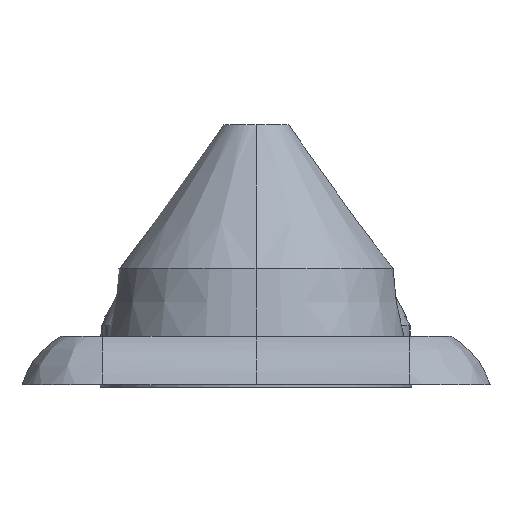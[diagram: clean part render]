
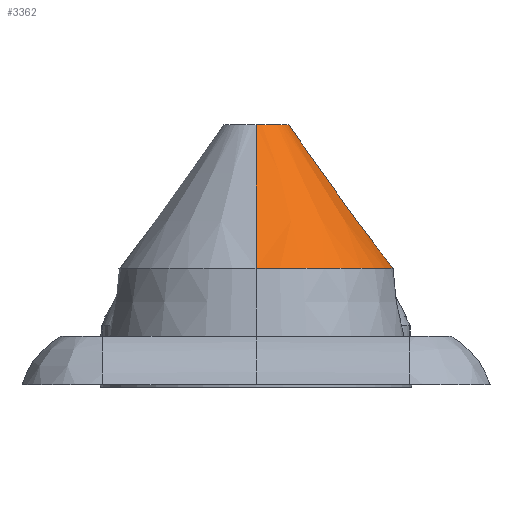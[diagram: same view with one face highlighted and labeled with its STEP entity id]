
A CAD part, left-side view. The second image highlights one B-rep face of the part: STEP entity #3362.
In plain terms, the highlighted conical face has half-angle 35.996 degrees and reference radius 26.863 mm.
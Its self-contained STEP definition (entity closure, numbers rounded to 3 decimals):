
#39 = CARTESIAN_POINT ( 'NONE',  ( 44.95, 45.7, 41.5 ) ) ;
#40 = DIRECTION ( 'NONE',  ( 0., 0., 1. ) ) ;
#41 = DIRECTION ( 'NONE',  ( 1., 0., 0. ) ) ;
#59 = CARTESIAN_POINT ( 'NONE',  ( 44.95, 45.7, 13.301 ) ) ;
#60 = DIRECTION ( 'NONE',  ( 0., 0., 1. ) ) ;
#61 = DIRECTION ( 'NONE',  ( 1., 0., 0. ) ) ;
#439 = CARTESIAN_POINT ( 'NONE',  ( 18.087, 45.7, 13.301 ) ) ;
#440 = CARTESIAN_POINT ( 'NONE',  ( 71.813, 45.7, 13.301 ) ) ;
#756 = CARTESIAN_POINT ( 'NONE',  ( 38.571, 45.7, 41.5 ) ) ;
#888 = DIRECTION ( 'NONE',  ( -1., 0., 0. ) ) ;
#890 = DIRECTION ( 'NONE',  ( 0., 0., -1. ) ) ;
#892 = CARTESIAN_POINT ( 'NONE',  ( 44.95, 45.7, 13.301 ) ) ;
#1485 = ORIENTED_EDGE ( 'NONE', *, *, #4126, .F. ) ;
#1682 = ORIENTED_EDGE ( 'NONE', *, *, #4494, .F. ) ;
#1755 = ORIENTED_EDGE ( 'NONE', *, *, #4131, .T. ) ;
#1898 = FACE_OUTER_BOUND ( 'NONE', #2505, .T. ) ;
#2256 = VERTEX_POINT ( 'NONE', #4324 ) ;
#2310 = VERTEX_POINT ( 'NONE', #756 ) ;
#2505 = EDGE_LOOP ( 'NONE', ( #1682, #1485, #6225, #1755 ) ) ;
#2555 = CONICAL_SURFACE ( 'NONE', #4054, 26.863, 0.628 ) ;
#2568 = VERTEX_POINT ( 'NONE', #439 ) ;
#2579 = VERTEX_POINT ( 'NONE', #440 ) ;
#2734 = VECTOR ( 'NONE', #5135, 1000. ) ;
#2882 = LINE ( 'NONE', #5128, #2734 ) ;
#2886 = LINE ( 'NONE', #5341, #2894 ) ;
#2894 = VECTOR ( 'NONE', #5342, 1000. ) ;
#3084 = CIRCLE ( 'NONE', #3608, 26.863 ) ;
#3260 = CIRCLE ( 'NONE', #3612, 6.379 ) ;
#3362 = ADVANCED_FACE ( 'NONE', ( #1898 ), #2555, .T. ) ;
#3608 = AXIS2_PLACEMENT_3D ( 'NONE', #59, #60, #61 ) ;
#3612 = AXIS2_PLACEMENT_3D ( 'NONE', #39, #40, #41 ) ;
#4054 = AXIS2_PLACEMENT_3D ( 'NONE', #892, #890, #888 ) ;
#4126 = EDGE_CURVE ( 'NONE', #2310, #2256, #3260, .T. ) ;
#4131 = EDGE_CURVE ( 'NONE', #2568, #2579, #3084, .T. ) ;
#4324 = CARTESIAN_POINT ( 'NONE',  ( 51.329, 45.7, 41.5 ) ) ;
#4494 = EDGE_CURVE ( 'NONE', #2256, #2579, #2882, .T. ) ;
#4515 = EDGE_CURVE ( 'NONE', #2310, #2568, #2886, .T. ) ;
#5128 = CARTESIAN_POINT ( 'NONE',  ( 71.813, 45.7, 13.301 ) ) ;
#5135 = DIRECTION ( 'NONE',  ( 0.588, 0., -0.809 ) ) ;
#5341 = CARTESIAN_POINT ( 'NONE',  ( 18.087, 45.7, 13.301 ) ) ;
#5342 = DIRECTION ( 'NONE',  ( -0.588, 0., -0.809 ) ) ;
#6225 = ORIENTED_EDGE ( 'NONE', *, *, #4515, .T. ) ;
